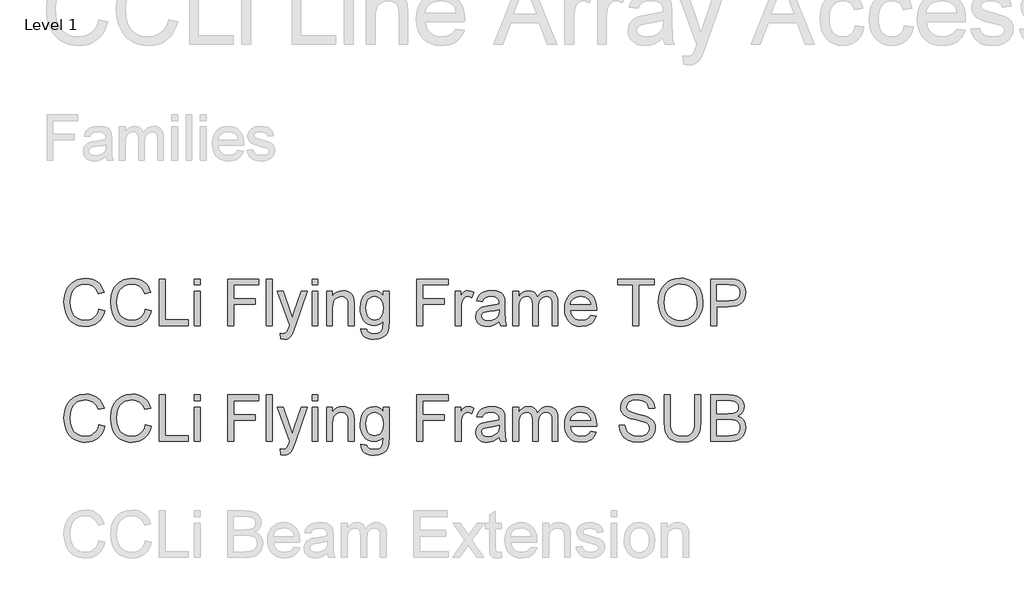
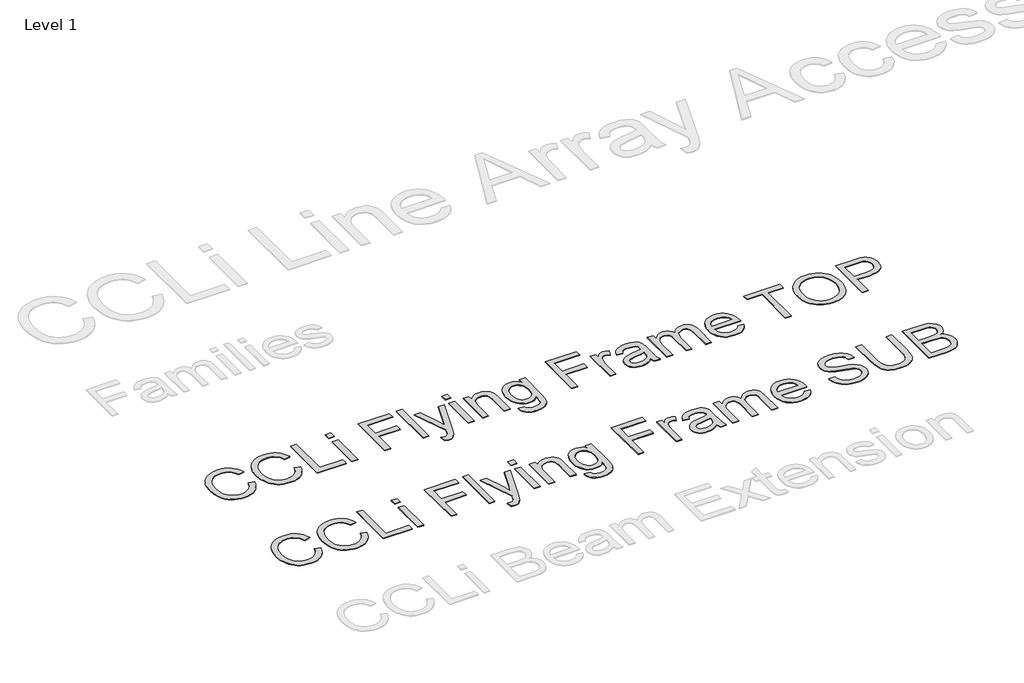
# One storey, part 12 of 31: 2 proxies.
"""IFC4 building model written with IfcOpenShell, lengths in millimetres."""

from ifc_helpers import new_model, si_unit, origin, origin_with_axes, place, context, project, spatial, polyline, outline, extrude, element, save

model = new_model("IFC4")

# Units and contexts
model_context = context("Model", 3, world=origin())
ifc_project = project(units=[si_unit("LENGTHUNIT", "METRE", prefix="MILLI")], contexts=[model_context])

# Site, building, storey
site = spatial("IfcSite", under=ifc_project)
building = spatial("IfcBuilding", under=site)
storey = spatial("IfcBuildingStorey", under=building, Name="Level 1", Elevation=0.0)

# Proxies
placement = place(None, origin())
element("IfcBuildingElementProxy", 1, Name="400mm Arial", ObjectType="400mm Arial", at=placement, inside=storey, context=model_context, shape_type="SweptSolid", body=[
    extrude(outline(polyline([(2002.8770376, -14954.6815806), (2053.1051927, -14967.6310268), (2043.1662474, -14998.8672739), (2029.928627, -15026.1610523), (2013.3923313, -15049.5123619), (1993.5573604, -15068.9212029), (1970.871304, -15084.1791086), (1945.7817519, -15095.0776127), (1918.2887042, -15101.6167152), (1888.3921607, -15103.796416), (1857.7629189, -15102.1470784), (1830.1319154, -15097.1990655), (1805.4991501, -15088.9523775), (1783.8646231, -15077.4070142), (1764.9309631, -15062.734654), (1748.4007988, -15045.106975), (1734.2741302, -15024.5239774), (1722.5509573, -15000.9856611), (1706.7688197, -14949.1142998), (1701.5081071, -14893.5641185), (1707.4555327, -14834.9727794), (1714.8898147, -14808.6753481), (1725.2978095, -14784.3767423), (1738.4465251, -14762.4785666), (1754.1029697, -14743.3824253), (1772.2671432, -14727.0883186), (1792.9390457, -14713.5962464), (1815.4166356, -14703.0165734), (1838.9978715, -14695.4596641), (1889.4712812, -14689.4141366), (1918.1997994, -14691.3700426), (1944.5432159, -14697.2377604), (1968.5015308, -14707.0172901), (1990.0747442, -14720.7086317), (2008.9072366, -14737.9500345), (2024.643389, -14758.379748), (2037.2832012, -14781.9977721), (2046.8266733, -14808.8041068), (1996.5985182, -14820.7725344), (1979.1854371, -14784.1437504), (1955.3957347, -14759.0174101), (1924.9351055, -14744.4860713), (1887.5092439, -14739.6422917), (1844.3689486, -14745.0133688), (1825.6866746, -14751.7272152), (1808.9296497, -14761.1266002), (1782.0374759, -14786.2897287), (1764.5385557, -14818.8104971), (1754.9368356, -14855.5741711), (1751.7362622, -14893.4660166), (1755.5254468, -14939.8681989), (1766.8930004, -14979.9918619), (1786.2681188, -15012.3041638), (1814.0799977, -15035.272263), (1847.4223692, -15048.9942614), (1883.3889656, -15053.5682609), (1905.2258277, -15052.0108938), (1925.3152503, -15047.3387925), (1943.6572334, -15039.5519569), (1960.2517771, -15028.6503871), (1974.7064738, -15014.683134), (1986.6289161, -14997.6992486), (1996.0191041, -14977.6987308), (2002.8770376, -14954.6815806)])), origin_with_axes(), (0.0, 0.0, 1.0), 5.0),
    extrude(outline(polyline([(2404.7022782, -14954.6815806), (2454.9304333, -14967.6310268), (2444.991488, -14998.8672739), (2431.7538676, -15026.1610523), (2415.2175719, -15049.5123619), (2395.382601, -15068.9212029), (2372.6965446, -15084.1791086), (2347.6069925, -15095.0776127), (2320.1139448, -15101.6167152), (2290.2174013, -15103.796416), (2259.5881595, -15102.1470784), (2231.957156, -15097.1990655), (2207.3243907, -15088.9523775), (2185.6898637, -15077.4070142), (2166.7562037, -15062.734654), (2150.2260394, -15045.106975), (2136.0993708, -15024.5239774), (2124.3761979, -15000.9856611), (2108.5940603, -14949.1142998), (2103.3333477, -14893.5641185), (2109.2807733, -14834.9727794), (2116.7150553, -14808.6753481), (2127.1230501, -14784.3767423), (2140.2717657, -14762.4785666), (2155.9282103, -14743.3824253), (2174.0923838, -14727.0883186), (2194.7642863, -14713.5962464), (2217.2418762, -14703.0165734), (2240.8231121, -14695.4596641), (2291.2965218, -14689.4141366), (2320.02504, -14691.3700426), (2346.3684565, -14697.2377604), (2370.3267714, -14707.0172901), (2391.8999848, -14720.7086317), (2410.7324772, -14737.9500345), (2426.4686296, -14758.379748), (2439.1084418, -14781.9977721), (2448.6519139, -14808.8041068), (2398.4237588, -14820.7725344), (2381.0106777, -14784.1437504), (2357.2209753, -14759.0174101), (2326.7603461, -14744.4860713), (2289.3344845, -14739.6422917), (2246.1941892, -14745.0133688), (2227.5119152, -14751.7272152), (2210.7548903, -14761.1266002), (2183.8627165, -14786.2897287), (2166.3637962, -14818.8104971), (2156.7620762, -14855.5741711), (2153.5615028, -14893.4660166), (2157.3506874, -14939.8681989), (2168.718241, -14979.9918619), (2188.0933594, -15012.3041638), (2215.9052383, -15035.272263), (2249.2476098, -15048.9942614), (2285.2142062, -15053.5682609), (2307.0510683, -15052.0108938), (2327.1404909, -15047.3387925), (2345.482474, -15039.5519569), (2362.0770177, -15028.6503871), (2376.5317144, -15014.683134), (2388.4541567, -14997.6992486), (2397.8443447, -14977.6987308), (2404.7022782, -14954.6815806)])), origin_with_axes(), (0.0, 0.0, 1.0), 5.0),
    extrude(outline(polyline([(2523.9941465, -15097.5178966), (2523.9941465, -14695.692656), (2574.2223016, -14695.692656), (2574.2223016, -15047.2897415), (2775.1349219, -15047.2897415), (2775.1349219, -15097.5178966), (2523.9941465, -15097.5178966)])), origin_with_axes(), (0.0, 0.0, 1.0), 5.0),
    extrude(outline(polyline([(2825.3630769, -15097.5178966), (2825.3630769, -14802.4274855), (2875.591232, -14802.4274855), (2875.591232, -15097.5178966), (2825.3630769, -15097.5178966)])), origin_with_axes(), (0.0, 0.0, 1.0), 5.0),
    extrude(outline(polyline([(2825.3630769, -14745.9208111), (2825.3630769, -14695.692656), (2875.591232, -14695.692656), (2875.591232, -14745.9208111), (2825.3630769, -14745.9208111)])), origin_with_axes(), (0.0, 0.0, 1.0), 5.0),
    extrude(outline(polyline([(3114.1749686, -15097.5178966), (3114.1749686, -14695.692656), (3384.1513021, -14695.692656), (3384.1513021, -14745.9208111), (3164.4031237, -14745.9208111), (3164.4031237, -14865.2126794), (3352.7587052, -14865.2126794), (3352.7587052, -14915.4408345), (3164.4031237, -14915.4408345), (3164.4031237, -15097.5178966), (3114.1749686, -15097.5178966)])), origin_with_axes(), (0.0, 0.0, 1.0), 5.0),
    extrude(outline(polyline([(3446.936496, -15097.5178966), (3446.936496, -14695.692656), (3497.1646511, -14695.692656), (3497.1646511, -15097.5178966), (3446.936496, -15097.5178966)])), origin_with_axes(), (0.0, 0.0, 1.0), 5.0),
    extrude(outline(polyline([(3572.5068837, -15210.5312455), (3566.2283643, -15162.1670259), (3591.7348493, -15166.5816098), (3605.1502794, -15165.195921), (3615.5736026, -15161.0388544), (3630.1907805, -15145.5878106), (3643.9250417, -15108.6034074), (3647.8491163, -15096.4387761), (3541.1142868, -14802.4274855), (3593.9911922, -14802.4274855), (3650.6940704, -14966.3557026), (3670.4125453, -15031.8877487), (3690.1310203, -14973.9095462), (3748.3054264, -14802.4274855), (3800.7899244, -14802.4274855), (3698.0772714, -15104.5812309), (3671.393564, -15170.113277), (3657.7328792, -15191.0334998), (3642.25731, -15205.5280504), (3624.3046686, -15213.9893363), (3603.2127675, -15216.8097649), (3572.5068837, -15210.5312455)])), origin_with_axes(), (0.0, 0.0, 1.0), 5.0),
    extrude(outline(polyline([(3842.4832172, -15097.5178966), (3842.4832172, -14802.4274855), (3892.7113723, -14802.4274855), (3892.7113723, -15097.5178966), (3842.4832172, -15097.5178966)])), origin_with_axes(), (0.0, 0.0, 1.0), 5.0),
    extrude(outline(polyline([(3842.4832172, -14745.9208111), (3842.4832172, -14695.692656), (3892.7113723, -14695.692656), (3892.7113723, -14745.9208111), (3842.4832172, -14745.9208111)])), origin_with_axes(), (0.0, 0.0, 1.0), 5.0),
    extrude(outline(polyline([(3968.0536049, -15097.5178966), (3968.0536049, -14802.4274855), (4018.28176, -14802.4274855), (4018.28176, -14843.630269), (4035.7316293, -14822.857199), (4056.6886403, -14808.0192919), (4081.1527929, -14799.1165476), (4109.1240873, -14796.1489662), (4133.8825456, -14798.5401991), (4156.5563392, -14805.713898), (4175.4654738, -14816.7748834), (4188.9299548, -14830.8279756), (4198.065691, -14847.8363865), (4203.9885911, -14867.7633279), (4206.6373415, -14916.3237513), (4206.6373415, -15097.5178966), (4156.4091864, -15097.5178966), (4156.4091864, -14923.09278), (4154.9621839, -14897.1203111), (4150.6211764, -14878.6526349), (4142.6136116, -14865.4211459), (4130.1669374, -14855.1572382), (4114.2131216, -14848.5721505), (4095.6841318, -14846.3771212), (4066.2658349, -14851.30674), (4041.1885455, -14866.0955962), (4031.1668269, -14878.168257), (4024.0084564, -14894.6677645), (4019.7134341, -14915.5941186), (4018.28176, -14940.9473195), (4018.28176, -15097.5178966), (3968.0536049, -15097.5178966)])), origin_with_axes(), (0.0, 0.0, 1.0), 5.0),
    extrude(outline(polyline([(4263.144016, -15122.6319741), (4313.372171, -15128.9104935), (4318.9149264, -15144.606792), (4329.6570807, -15155.3979972), (4350.7735072, -15163.7857067), (4378.4137078, -15166.5816098), (4407.8933183, -15163.4178247), (4429.8190852, -15153.9264692), (4445.0248744, -15138.7206801), (4454.3445516, -15118.4135939), (4457.7781169, -15059.8467803), (4441.0640116, -15076.3278937), (4422.4123944, -15088.1001175), (4401.8232654, -15095.1634518), (4379.2966246, -15097.5178966), (4351.7575915, -15094.7771757), (4327.5111024, -15086.5550132), (4306.5571571, -15072.8514088), (4288.8957556, -15053.6663628), (4274.8825173, -15030.6492126), (4264.8730613, -15005.4492959), (4258.8673878, -14978.0666128), (4256.8654966, -14948.5011631), (4260.4584774, -14907.9483045), (4271.2374199, -14870.6573329), (4288.8221792, -14839.0562695), (4312.8326108, -14815.5731355), (4342.4471114, -14801.0050085), (4376.8440779, -14796.1489662), (4400.3333433, -14798.8958184), (4421.6521049, -14807.1363751), (4440.8003628, -14820.8706362), (4457.7781169, -14840.0986019), (4457.7781169, -14802.4274855), (4508.0062719, -14802.4274855), (4508.0062719, -15057.1980299), (4504.5727067, -15116.022361), (4494.2720108, -15154.7603351), (4476.5278359, -15180.4507611), (4450.7638335, -15200.1324478), (4417.5440893, -15212.6404356), (4377.4326891, -15216.8097649), (4352.8244493, -15215.3413026), (4330.699413, -15210.9359157), (4311.0575801, -15203.5936042), (4293.8989508, -15193.3143682), (4280.0389966, -15180.0859447), (4270.2931894, -15163.8960713), (4264.6615292, -15144.7447477), (4263.144016, -15122.6319741)]), holes=[polyline([(4307.0936516, -14945.0675978), (4312.452466, -14991.1386863), (4319.150984, -15008.7755623), (4328.5289092, -15022.8133261), (4339.9301854, -15033.5217579), (4352.6987563, -15041.1706377), (4366.834622, -15045.7599656), (4382.3377824, -15047.2897415), (4397.6876586, -15045.7691626), (4411.7560793, -15041.2074259), (4424.5430443, -15033.6045313), (4436.0485537, -15022.9604789), (4445.5552376, -15009.0606709), (4452.3457261, -14991.6905093), (4457.7781169, -14946.5391258), (4452.1863105, -14902.9941603), (4445.1965526, -14885.7926113), (4435.4108916, -14871.6383516), (4423.6570618, -14860.5865633), (4410.7627979, -14852.6924288), (4396.7280998, -14847.9559481), (4381.5529675, -14846.3771212), (4366.6322869, -14847.9314227), (4352.8704346, -14852.594327), (4328.8232148, -14871.2459441), (4319.3165309, -14885.185606), (4312.5260424, -14902.135769), (4307.0936516, -14945.0675978)])]), origin_with_axes(), (0.0, 0.0, 1.0), 5.0),
    extrude(outline(polyline([(4746.5900086, -15097.5178966), (4746.5900086, -14695.692656), (5016.5663421, -14695.692656), (5016.5663421, -14745.9208111), (4796.8181636, -14745.9208111), (4796.8181636, -14865.2126794), (4985.1737452, -14865.2126794), (4985.1737452, -14915.4408345), (4796.8181636, -14915.4408345), (4796.8181636, -15097.5178966), (4746.5900086, -15097.5178966)])), origin_with_axes(), (0.0, 0.0, 1.0), 5.0),
    extrude(outline(polyline([(5079.3515359, -15097.5178966), (5079.3515359, -14802.4274855), (5123.3011716, -14802.4274855), (5123.3011716, -14846.0828156), (5139.5370303, -14820.7725344), (5154.4975648, -14805.8610508), (5169.5071502, -14798.5769873), (5185.8901617, -14796.1489662), (5210.9061374, -14800.0239898), (5236.3145205, -14811.6490609), (5219.5391016, -14856.6778171), (5201.8807658, -14848.9522952), (5184.22243, -14846.3771212), (5169.2251073, -14848.8541933), (5155.82194, -14856.2854096), (5144.9939466, -14868.1066844), (5137.7221458, -14883.7539319), (5131.6153047, -14911.8110654), (5129.579691, -14942.4188474), (5129.579691, -15097.5178966), (5079.3515359, -15097.5178966)])), origin_with_axes(), (0.0, 0.0, 1.0), 5.0),
    extrude(outline(polyline([(5456.062699, -15059.8467803), (5432.0645302, -15080.4236466), (5407.3551228, -15093.8881276), (5381.3703912, -15101.3193439), (5353.5462497, -15103.796416), (5331.18209, -15102.3064939), (5311.570914, -15097.8367277), (5294.7127216, -15090.3871173), (5280.6075128, -15079.9576627), (5269.4698853, -15067.2105516), (5261.5144372, -15052.8079715), (5256.7411683, -15036.7499224), (5255.1500787, -15019.0364043), (5257.5535744, -14998.2142834), (5264.7640615, -14979.3051488), (5275.8863605, -14963.118341), (5290.0252918, -14950.4632004), (5306.6412953, -14940.8982685), (5325.1948106, -14933.982087), (5368.6539369, -14926.4282434), (5420.0102635, -14918.4819923), (5455.7683934, -14909.1623151), (5456.062699, -14897.9787024), (5452.6046082, -14875.5624262), (5442.230336, -14860.8961973), (5419.0292448, -14850.0068903), (5386.7046802, -14846.3771212), (5356.7836112, -14848.7928797), (5335.8879139, -14856.040155), (5321.6386179, -14869.4433223), (5311.6567531, -14890.3267569), (5261.4285981, -14884.0482375), (5270.1474014, -14856.5797152), (5283.1581613, -14834.9973049), (5301.6748883, -14818.491666), (5326.9115932, -14806.2534583), (5357.7768926, -14798.6750892), (5393.1794033, -14796.1489662), (5427.1349114, -14798.3807836), (5454.0516107, -14805.0762359), (5474.3464341, -14815.1439398), (5488.4363146, -14827.4925121), (5497.7805172, -14842.7596149), (5503.8383074, -14861.5829104), (5506.2908541, -14905.5325461), (5506.2908541, -14968.0234343), (5508.8415026, -15055.2850436), (5518.8478928, -15097.5178966), (5468.6197378, -15097.5178966), (5460.5753848, -15080.0557646), (5456.062699, -15059.8467803)]), holes=[polyline([(5456.062699, -14959.3904702), (5422.3156573, -14967.7536542), (5375.0305582, -14974.792463), (5331.8166865, -14982.9349178), (5320.5717602, -14988.5021987), (5312.2453643, -14996.1786697), (5307.0950164, -15005.3757195), (5305.3782338, -15015.5047372), (5309.1183674, -15030.4407462), (5320.3387682, -15042.6789539), (5338.7941817, -15050.8459342), (5364.239353, -15053.5682609), (5391.217366, -15050.5638913), (5415.0561193, -15041.5507824), (5434.3821867, -15028.2702424), (5447.8221423, -15012.4635793), (5453.7818306, -14996.1786697), (5455.7683934, -14973.6152406), (5456.062699, -14959.3904702)])]), origin_with_axes(), (0.0, 0.0, 1.0), 5.0),
    extrude(outline(polyline([(5575.3545673, -15097.5178966), (5575.3545673, -14802.4274855), (5625.5827224, -14802.4274855), (5625.5827224, -14850.9879089), (5640.6904096, -14828.6819973), (5660.114579, -14811.2076025), (5683.1930428, -14799.9136252), (5709.2636135, -14796.1489662), (5737.1981197, -14799.9872016), (5759.5898705, -14811.5019081), (5776.3162385, -14829.9327961), (5787.2545965, -14854.5195761), (5805.5628571, -14828.9824342), (5826.4462917, -14810.7416186), (5849.9049003, -14799.7971293), (5875.9386828, -14796.1489662), (5896.0464995, -14797.6664794), (5913.6956383, -14802.2190191), (5928.886099, -14809.8065852), (5941.6178817, -14820.4291778), (5951.6825199, -14834.2094242), (5958.8715473, -14851.2699518), (5963.1849637, -14871.6107604), (5964.6227691, -14895.2318502), (5964.6227691, -15097.5178966), (5914.394614, -15097.5178966), (5914.394614, -14916.8142606), (5913.2296544, -14891.7614967), (5909.7347754, -14874.8757131), (5903.1864759, -14863.3119557), (5892.8612546, -14854.2252705), (5879.5807146, -14848.3391585), (5864.166459, -14846.3771212), (5836.9554541, -14851.4048418), (5814.7721697, -14866.4880036), (5806.1667967, -14878.0578924), (5800.0201017, -14892.6566762), (5795.1027457, -14930.9409292), (5795.1027457, -15097.5178966), (5744.8745907, -15097.5178966), (5744.8745907, -14911.2224543), (5741.9683229, -14882.8219642), (5733.2495196, -14862.563929), (5717.9088404, -14850.4238232), (5695.1369449, -14846.3771212), (5675.786352, -14849.0749225), (5657.9563379, -14857.1683264), (5643.2410581, -14870.4611292), (5633.2346679, -14888.7571271), (5627.4957087, -14914.1409847), (5625.5827224, -14948.6973668), (5625.5827224, -15097.5178966), (5575.3545673, -15097.5178966)])), origin_with_axes(), (0.0, 0.0, 1.0), 5.0),
    extrude(outline(polyline([(6246.5675302, -15009.6186252), (6295.8146666, -15015.8971446), (6288.2638887, -15035.6217509), (6278.0704917, -15053.0041752), (6265.2344758, -15068.0444174), (6249.7558408, -15080.7424776), (6231.7940024, -15090.8285757), (6211.5083761, -15098.0329314), (6163.9657596, -15103.796416), (6132.8000232, -15101.3101468), (6105.0310639, -15093.8513394), (6080.6588818, -15081.4199936), (6059.6834767, -15064.0161096), (6042.8160872, -15042.1240652), (6030.7679519, -15016.2282384), (6023.5390706, -14986.3286292), (6021.1294436, -14952.4252377), (6023.5635961, -14917.3722149), (6030.8660537, -14886.4762587), (6043.0368164, -14859.737369), (6060.0758841, -14837.1555459), (6080.9961069, -14819.2151673), (6104.8103347, -14806.4006111), (6131.5185676, -14798.7118774), (6161.1208055, -14796.1489662), (6189.7696158, -14798.705746), (6215.6777054, -14806.3760856), (6238.845074, -14819.159985), (6259.2717218, -14837.057444), (6275.9459732, -14859.5902162), (6287.8561528, -14886.280055), (6295.0022606, -14917.1269603), (6297.3842965, -14952.1309321), (6297.0899909, -14965.6689895), (6071.3575987, -14965.6689895), (6074.2669321, -14985.7124269), (6080.0518765, -15003.2665294), (6088.7124318, -15018.3312971), (6100.248598, -15030.90673), (6114.022713, -15040.8211498), (6129.3971148, -15047.9028782), (6164.9467782, -15053.5682609), (6191.6795365, -15050.944036), (6214.1939146, -15043.0713613), (6232.4899125, -15029.4597275), (6246.5675302, -15009.6186252)]), holes=[polyline([(6071.3575987, -14915.4408345), (6247.1561414, -14915.4408345), (6240.3625872, -14888.9042799), (6227.045259, -14869.9215689), (6213.3477861, -14859.6208731), (6197.7618522, -14852.2632332), (6180.2874574, -14847.8486492), (6160.9246017, -14846.3771212), (6127.0671955, -14851.073748), (6099.0713756, -14865.1636285), (6079.6104181, -14887.1261836), (6071.3575987, -14915.4408345)])]), origin_with_axes(), (0.0, 0.0, 1.0), 5.0),
    extrude(outline(polyline([(6611.3102657, -15097.5178966), (6611.3102657, -14745.9208111), (6479.4613586, -14745.9208111), (6479.4613586, -14695.692656), (6793.3873279, -14695.692656), (6793.3873279, -14745.9208111), (6661.5384208, -14745.9208111), (6661.5384208, -15097.5178966), (6611.3102657, -15097.5178966)])), origin_with_axes(), (0.0, 0.0, 1.0), 5.0),
    extrude(outline(polyline([(6831.0584442, -14901.902777), (6834.4061703, -14854.7709621), (6844.4493488, -14813.0470125), (6861.1879796, -14776.7309282), (6884.6220627, -14745.8227092), (6913.3475151, -14721.1439587), (6945.960254, -14703.5162798), (6982.4602793, -14692.9396724), (7022.847591, -14689.4141366), (7049.8807863, -14691.0696056), (7075.5528182, -14696.0360125), (7099.8636867, -14704.3133574), (7122.8133918, -14715.9016403), (7143.7581401, -14730.4513732), (7162.054138, -14747.6130683), (7177.7013855, -14767.3867255), (7190.6998826, -14789.7723449), (7200.9147394, -14814.2610231), (7208.2110656, -14840.3438565), (7214.0481266, -14897.2919894), (7212.5122193, -14926.9494095), (7207.9044973, -14955.0004117), (7200.2249606, -14981.4449958), (7189.4736093, -15006.2831618), (7175.9048951, -15028.8588536), (7159.7732696, -15048.5160149), (7141.0787329, -15065.2546456), (7119.8212849, -15079.0747459), (7096.8378573, -15089.8904766), (7072.9653815, -15097.6159985), (7048.2038575, -15102.2513116), (7022.5532854, -15103.796416), (6995.0479749, -15102.0888304), (6969.0387178, -15096.9660736), (6944.5255142, -15088.4281456), (6921.508364, -15076.4750465), (6900.5881412, -15061.5696943), (6882.3657198, -15044.1750073), (6866.8410996, -15024.2909855), (6854.0142807, -15001.9176288), (6836.7974033, -14953.2958918), (6831.0584442, -14901.902777)]), holes=[polyline([(6881.2865992, -14902.3932864), (6883.7973939, -14935.6927383), (6891.3297777, -14965.2520566), (6903.8837508, -14991.0712413), (6921.4593131, -15013.1502924), (6942.82406, -15030.8331536), (6966.7455867, -15043.4637688), (6993.2238933, -15051.0421379), (7022.2589798, -15053.5682609), (7051.7907069, -15051.0176124), (7078.5817132, -15043.3656669), (7102.6319987, -15030.6124244), (7123.9415633, -15012.7578849), (7141.3883669, -14990.21285), (7153.8503695, -14963.3881212), (7161.327571, -14932.2836985), (7163.8199715, -14896.8995819), (7159.5525404, -14852.4349114), (7146.750247, -14814.0035057), (7125.744185, -14782.5741205), (7096.8654484, -14759.115512), (7062.0270235, -14744.5105968), (7023.1418966, -14739.6422917), (6995.1154199, -14741.9875394), (6969.1122942, -14749.0232826), (6945.1325195, -14760.7495212), (6923.1760958, -14777.1662552), (6904.849441, -14799.064431), (6891.7589734, -14827.2349948), (6883.9046928, -14861.6779466), (6881.2865992, -14902.3932864)])]), origin_with_axes(), (0.0, 0.0, 1.0), 5.0),
    extrude(outline(polyline([(7283.1118398, -15097.5178966), (7283.1118398, -14695.692656), (7432.0304715, -14695.692656), (7492.0688131, -14699.5186288), (7518.8383596, -14706.6678022), (7540.8744911, -14718.305136), (7558.618666, -14734.9579276), (7572.5123427, -14757.1534747), (7581.4886634, -14783.33441), (7584.4807703, -14811.9433665), (7582.460485, -14836.6098543), (7576.3996291, -14859.302042), (7566.2982027, -14880.0199297), (7552.1562056, -14898.7635173), (7532.7412333, -14914.3004003), (7506.8208811, -14925.3981738), (7474.3951489, -14932.0568379), (7435.4640368, -14934.2763926), (7333.3399949, -14934.2763926), (7333.3399949, -15097.5178966), (7283.1118398, -15097.5178966)]), holes=[polyline([(7333.3399949, -14884.0482375), (7438.4070927, -14884.0482375), (7482.9453396, -14879.4374499), (7499.5490803, -14873.6739653), (7512.3758992, -14865.6050868), (7521.9469625, -14855.4454124), (7528.7834362, -14843.4095398), (7534.2526152, -14813.7092001), (7531.0275164, -14791.145771), (7521.3522199, -14772.1140091), (7506.4284736, -14757.7911368), (7487.4580254, -14749.3543764), (7437.2298703, -14745.9208111), (7333.3399949, -14745.9208111), (7333.3399949, -14884.0482375)])]), origin_with_axes(), (0.0, 0.0, 1.0), 5.0),
])
element("IfcBuildingElementProxy", 2, Name="400mm Arial", ObjectType="400mm Arial", at=placement, inside=storey, context=model_context, shape_type="SweptSolid", body=[
    extrude(outline(polyline([(2002.8770376, -15954.6815806), (2053.1051927, -15967.6310268), (2043.1662474, -15998.8672739), (2029.928627, -16026.1610523), (2013.3923313, -16049.5123619), (1993.5573604, -16068.9212029), (1970.871304, -16084.1791086), (1945.7817519, -16095.0776127), (1918.2887042, -16101.6167152), (1888.3921607, -16103.796416), (1857.7629189, -16102.1470784), (1830.1319154, -16097.1990655), (1805.4991501, -16088.9523775), (1783.8646231, -16077.4070142), (1764.9309631, -16062.734654), (1748.4007988, -16045.106975), (1734.2741302, -16024.5239774), (1722.5509573, -16000.9856611), (1706.7688197, -15949.1142998), (1701.5081071, -15893.5641185), (1707.4555327, -15834.9727794), (1714.8898147, -15808.6753481), (1725.2978095, -15784.3767423), (1738.4465251, -15762.4785666), (1754.1029697, -15743.3824253), (1772.2671432, -15727.0883186), (1792.9390457, -15713.5962464), (1815.4166356, -15703.0165734), (1838.9978715, -15695.4596641), (1889.4712812, -15689.4141366), (1918.1997994, -15691.3700426), (1944.5432159, -15697.2377604), (1968.5015308, -15707.0172901), (1990.0747442, -15720.7086317), (2008.9072366, -15737.9500345), (2024.643389, -15758.379748), (2037.2832012, -15781.9977721), (2046.8266733, -15808.8041068), (1996.5985182, -15820.7725344), (1979.1854371, -15784.1437504), (1955.3957347, -15759.0174101), (1924.9351055, -15744.4860713), (1887.5092439, -15739.6422917), (1844.3689486, -15745.0133688), (1825.6866746, -15751.7272152), (1808.9296497, -15761.1266002), (1782.0374759, -15786.2897287), (1764.5385557, -15818.8104971), (1754.9368356, -15855.5741711), (1751.7362622, -15893.4660166), (1755.5254468, -15939.8681989), (1766.8930004, -15979.9918619), (1786.2681188, -16012.3041638), (1814.0799977, -16035.272263), (1847.4223692, -16048.9942614), (1883.3889656, -16053.5682609), (1905.2258277, -16052.0108938), (1925.3152503, -16047.3387925), (1943.6572334, -16039.5519569), (1960.2517771, -16028.6503871), (1974.7064738, -16014.683134), (1986.6289161, -15997.6992486), (1996.0191041, -15977.6987308), (2002.8770376, -15954.6815806)])), origin_with_axes(), (0.0, 0.0, 1.0), 5.0),
    extrude(outline(polyline([(2404.7022782, -15954.6815806), (2454.9304333, -15967.6310268), (2444.991488, -15998.8672739), (2431.7538676, -16026.1610523), (2415.2175719, -16049.5123619), (2395.382601, -16068.9212029), (2372.6965446, -16084.1791086), (2347.6069925, -16095.0776127), (2320.1139448, -16101.6167152), (2290.2174013, -16103.796416), (2259.5881595, -16102.1470784), (2231.957156, -16097.1990655), (2207.3243907, -16088.9523775), (2185.6898637, -16077.4070142), (2166.7562037, -16062.734654), (2150.2260394, -16045.106975), (2136.0993708, -16024.5239774), (2124.3761979, -16000.9856611), (2108.5940603, -15949.1142998), (2103.3333477, -15893.5641185), (2109.2807733, -15834.9727794), (2116.7150553, -15808.6753481), (2127.1230501, -15784.3767423), (2140.2717657, -15762.4785666), (2155.9282103, -15743.3824253), (2174.0923838, -15727.0883186), (2194.7642863, -15713.5962464), (2217.2418762, -15703.0165734), (2240.8231121, -15695.4596641), (2291.2965218, -15689.4141366), (2320.02504, -15691.3700426), (2346.3684565, -15697.2377604), (2370.3267714, -15707.0172901), (2391.8999848, -15720.7086317), (2410.7324772, -15737.9500345), (2426.4686296, -15758.379748), (2439.1084418, -15781.9977721), (2448.6519139, -15808.8041068), (2398.4237588, -15820.7725344), (2381.0106777, -15784.1437504), (2357.2209753, -15759.0174101), (2326.7603461, -15744.4860713), (2289.3344845, -15739.6422917), (2246.1941892, -15745.0133688), (2227.5119152, -15751.7272152), (2210.7548903, -15761.1266002), (2183.8627165, -15786.2897287), (2166.3637962, -15818.8104971), (2156.7620762, -15855.5741711), (2153.5615028, -15893.4660166), (2157.3506874, -15939.8681989), (2168.718241, -15979.9918619), (2188.0933594, -16012.3041638), (2215.9052383, -16035.272263), (2249.2476098, -16048.9942614), (2285.2142062, -16053.5682609), (2307.0510683, -16052.0108938), (2327.1404909, -16047.3387925), (2345.482474, -16039.5519569), (2362.0770177, -16028.6503871), (2376.5317144, -16014.683134), (2388.4541567, -15997.6992486), (2397.8443447, -15977.6987308), (2404.7022782, -15954.6815806)])), origin_with_axes(), (0.0, 0.0, 1.0), 5.0),
    extrude(outline(polyline([(2523.9941465, -16097.5178966), (2523.9941465, -15695.692656), (2574.2223016, -15695.692656), (2574.2223016, -16047.2897415), (2775.1349219, -16047.2897415), (2775.1349219, -16097.5178966), (2523.9941465, -16097.5178966)])), origin_with_axes(), (0.0, 0.0, 1.0), 5.0),
    extrude(outline(polyline([(2825.3630769, -16097.5178966), (2825.3630769, -15802.4274855), (2875.591232, -15802.4274855), (2875.591232, -16097.5178966), (2825.3630769, -16097.5178966)])), origin_with_axes(), (0.0, 0.0, 1.0), 5.0),
    extrude(outline(polyline([(2825.3630769, -15745.9208111), (2825.3630769, -15695.692656), (2875.591232, -15695.692656), (2875.591232, -15745.9208111), (2825.3630769, -15745.9208111)])), origin_with_axes(), (0.0, 0.0, 1.0), 5.0),
    extrude(outline(polyline([(3114.1749686, -16097.5178966), (3114.1749686, -15695.692656), (3384.1513021, -15695.692656), (3384.1513021, -15745.9208111), (3164.4031237, -15745.9208111), (3164.4031237, -15865.2126794), (3352.7587052, -15865.2126794), (3352.7587052, -15915.4408345), (3164.4031237, -15915.4408345), (3164.4031237, -16097.5178966), (3114.1749686, -16097.5178966)])), origin_with_axes(), (0.0, 0.0, 1.0), 5.0),
    extrude(outline(polyline([(3446.936496, -16097.5178966), (3446.936496, -15695.692656), (3497.1646511, -15695.692656), (3497.1646511, -16097.5178966), (3446.936496, -16097.5178966)])), origin_with_axes(), (0.0, 0.0, 1.0), 5.0),
    extrude(outline(polyline([(3572.5068837, -16210.5312455), (3566.2283643, -16162.1670259), (3591.7348493, -16166.5816098), (3605.1502794, -16165.195921), (3615.5736026, -16161.0388544), (3630.1907805, -16145.5878106), (3643.9250417, -16108.6034074), (3647.8491163, -16096.4387761), (3541.1142868, -15802.4274855), (3593.9911922, -15802.4274855), (3650.6940704, -15966.3557026), (3670.4125453, -16031.8877487), (3690.1310203, -15973.9095462), (3748.3054264, -15802.4274855), (3800.7899244, -15802.4274855), (3698.0772714, -16104.5812309), (3671.393564, -16170.113277), (3657.7328792, -16191.0334998), (3642.25731, -16205.5280504), (3624.3046686, -16213.9893363), (3603.2127675, -16216.8097649), (3572.5068837, -16210.5312455)])), origin_with_axes(), (0.0, 0.0, 1.0), 5.0),
    extrude(outline(polyline([(3842.4832172, -16097.5178966), (3842.4832172, -15802.4274855), (3892.7113723, -15802.4274855), (3892.7113723, -16097.5178966), (3842.4832172, -16097.5178966)])), origin_with_axes(), (0.0, 0.0, 1.0), 5.0),
    extrude(outline(polyline([(3842.4832172, -15745.9208111), (3842.4832172, -15695.692656), (3892.7113723, -15695.692656), (3892.7113723, -15745.9208111), (3842.4832172, -15745.9208111)])), origin_with_axes(), (0.0, 0.0, 1.0), 5.0),
    extrude(outline(polyline([(3968.0536049, -16097.5178966), (3968.0536049, -15802.4274855), (4018.28176, -15802.4274855), (4018.28176, -15843.630269), (4035.7316293, -15822.857199), (4056.6886403, -15808.0192919), (4081.1527929, -15799.1165476), (4109.1240873, -15796.1489662), (4133.8825456, -15798.5401991), (4156.5563392, -15805.713898), (4175.4654738, -15816.7748834), (4188.9299548, -15830.8279756), (4198.065691, -15847.8363865), (4203.9885911, -15867.7633279), (4206.6373415, -15916.3237513), (4206.6373415, -16097.5178966), (4156.4091864, -16097.5178966), (4156.4091864, -15923.09278), (4154.9621839, -15897.1203111), (4150.6211764, -15878.6526349), (4142.6136116, -15865.4211459), (4130.1669374, -15855.1572382), (4114.2131216, -15848.5721505), (4095.6841318, -15846.3771212), (4066.2658349, -15851.30674), (4041.1885455, -15866.0955962), (4031.1668269, -15878.168257), (4024.0084564, -15894.6677645), (4019.7134341, -15915.5941186), (4018.28176, -15940.9473195), (4018.28176, -16097.5178966), (3968.0536049, -16097.5178966)])), origin_with_axes(), (0.0, 0.0, 1.0), 5.0),
    extrude(outline(polyline([(4263.144016, -16122.6319741), (4313.372171, -16128.9104935), (4318.9149264, -16144.606792), (4329.6570807, -16155.3979972), (4350.7735072, -16163.7857067), (4378.4137078, -16166.5816098), (4407.8933183, -16163.4178247), (4429.8190852, -16153.9264692), (4445.0248744, -16138.7206801), (4454.3445516, -16118.4135939), (4457.7781169, -16059.8467803), (4441.0640116, -16076.3278937), (4422.4123944, -16088.1001175), (4401.8232654, -16095.1634518), (4379.2966246, -16097.5178966), (4351.7575915, -16094.7771757), (4327.5111024, -16086.5550132), (4306.5571571, -16072.8514088), (4288.8957556, -16053.6663628), (4274.8825173, -16030.6492126), (4264.8730613, -16005.4492959), (4258.8673878, -15978.0666128), (4256.8654966, -15948.5011631), (4260.4584774, -15907.9483045), (4271.2374199, -15870.6573329), (4288.8221792, -15839.0562695), (4312.8326108, -15815.5731355), (4342.4471114, -15801.0050085), (4376.8440779, -15796.1489662), (4400.3333433, -15798.8958184), (4421.6521049, -15807.1363751), (4440.8003628, -15820.8706362), (4457.7781169, -15840.0986019), (4457.7781169, -15802.4274855), (4508.0062719, -15802.4274855), (4508.0062719, -16057.1980299), (4504.5727067, -16116.022361), (4494.2720108, -16154.7603351), (4476.5278359, -16180.4507611), (4450.7638335, -16200.1324478), (4417.5440893, -16212.6404356), (4377.4326891, -16216.8097649), (4352.8244493, -16215.3413026), (4330.699413, -16210.9359157), (4311.0575801, -16203.5936042), (4293.8989508, -16193.3143682), (4280.0389966, -16180.0859447), (4270.2931894, -16163.8960713), (4264.6615292, -16144.7447477), (4263.144016, -16122.6319741)]), holes=[polyline([(4307.0936516, -15945.0675978), (4312.452466, -15991.1386863), (4319.150984, -16008.7755623), (4328.5289092, -16022.8133261), (4339.9301854, -16033.5217579), (4352.6987563, -16041.1706377), (4366.834622, -16045.7599656), (4382.3377824, -16047.2897415), (4397.6876586, -16045.7691626), (4411.7560793, -16041.2074259), (4424.5430443, -16033.6045313), (4436.0485537, -16022.9604789), (4445.5552376, -16009.0606709), (4452.3457261, -15991.6905093), (4457.7781169, -15946.5391258), (4452.1863105, -15902.9941603), (4445.1965526, -15885.7926113), (4435.4108916, -15871.6383516), (4423.6570618, -15860.5865633), (4410.7627979, -15852.6924288), (4396.7280998, -15847.9559481), (4381.5529675, -15846.3771212), (4366.6322869, -15847.9314227), (4352.8704346, -15852.594327), (4328.8232148, -15871.2459441), (4319.3165309, -15885.185606), (4312.5260424, -15902.135769), (4307.0936516, -15945.0675978)])]), origin_with_axes(), (0.0, 0.0, 1.0), 5.0),
    extrude(outline(polyline([(4746.5900086, -16097.5178966), (4746.5900086, -15695.692656), (5016.5663421, -15695.692656), (5016.5663421, -15745.9208111), (4796.8181636, -15745.9208111), (4796.8181636, -15865.2126794), (4985.1737452, -15865.2126794), (4985.1737452, -15915.4408345), (4796.8181636, -15915.4408345), (4796.8181636, -16097.5178966), (4746.5900086, -16097.5178966)])), origin_with_axes(), (0.0, 0.0, 1.0), 5.0),
    extrude(outline(polyline([(5079.3515359, -16097.5178966), (5079.3515359, -15802.4274855), (5123.3011716, -15802.4274855), (5123.3011716, -15846.0828156), (5139.5370303, -15820.7725344), (5154.4975648, -15805.8610508), (5169.5071502, -15798.5769873), (5185.8901617, -15796.1489662), (5210.9061374, -15800.0239898), (5236.3145205, -15811.6490609), (5219.5391016, -15856.6778171), (5201.8807658, -15848.9522952), (5184.22243, -15846.3771212), (5169.2251073, -15848.8541933), (5155.82194, -15856.2854096), (5144.9939466, -15868.1066844), (5137.7221458, -15883.7539319), (5131.6153047, -15911.8110654), (5129.579691, -15942.4188474), (5129.579691, -16097.5178966), (5079.3515359, -16097.5178966)])), origin_with_axes(), (0.0, 0.0, 1.0), 5.0),
    extrude(outline(polyline([(5456.062699, -16059.8467803), (5432.0645302, -16080.4236466), (5407.3551228, -16093.8881276), (5381.3703912, -16101.3193439), (5353.5462497, -16103.796416), (5331.18209, -16102.3064939), (5311.570914, -16097.8367277), (5294.7127216, -16090.3871173), (5280.6075128, -16079.9576627), (5269.4698853, -16067.2105516), (5261.5144372, -16052.8079715), (5256.7411683, -16036.7499224), (5255.1500787, -16019.0364043), (5257.5535744, -15998.2142834), (5264.7640615, -15979.3051488), (5275.8863605, -15963.118341), (5290.0252918, -15950.4632004), (5306.6412953, -15940.8982685), (5325.1948106, -15933.982087), (5368.6539369, -15926.4282434), (5420.0102635, -15918.4819923), (5455.7683934, -15909.1623151), (5456.062699, -15897.9787024), (5452.6046082, -15875.5624262), (5442.230336, -15860.8961973), (5419.0292448, -15850.0068903), (5386.7046802, -15846.3771212), (5356.7836112, -15848.7928797), (5335.8879139, -15856.040155), (5321.6386179, -15869.4433223), (5311.6567531, -15890.3267569), (5261.4285981, -15884.0482375), (5270.1474014, -15856.5797152), (5283.1581613, -15834.9973049), (5301.6748883, -15818.491666), (5326.9115932, -15806.2534583), (5357.7768926, -15798.6750892), (5393.1794033, -15796.1489662), (5427.1349114, -15798.3807836), (5454.0516107, -15805.0762359), (5474.3464341, -15815.1439398), (5488.4363146, -15827.4925121), (5497.7805172, -15842.7596149), (5503.8383074, -15861.5829104), (5506.2908541, -15905.5325461), (5506.2908541, -15968.0234343), (5508.8415026, -16055.2850436), (5518.8478928, -16097.5178966), (5468.6197378, -16097.5178966), (5460.5753848, -16080.0557646), (5456.062699, -16059.8467803)]), holes=[polyline([(5456.062699, -15959.3904702), (5422.3156573, -15967.7536542), (5375.0305582, -15974.792463), (5331.8166865, -15982.9349178), (5320.5717602, -15988.5021987), (5312.2453643, -15996.1786697), (5307.0950164, -16005.3757195), (5305.3782338, -16015.5047372), (5309.1183674, -16030.4407462), (5320.3387682, -16042.6789539), (5338.7941817, -16050.8459342), (5364.239353, -16053.5682609), (5391.217366, -16050.5638913), (5415.0561193, -16041.5507824), (5434.3821867, -16028.2702424), (5447.8221423, -16012.4635793), (5453.7818306, -15996.1786697), (5455.7683934, -15973.6152406), (5456.062699, -15959.3904702)])]), origin_with_axes(), (0.0, 0.0, 1.0), 5.0),
    extrude(outline(polyline([(5575.3545673, -16097.5178966), (5575.3545673, -15802.4274855), (5625.5827224, -15802.4274855), (5625.5827224, -15850.9879089), (5640.6904096, -15828.6819973), (5660.114579, -15811.2076025), (5683.1930428, -15799.9136252), (5709.2636135, -15796.1489662), (5737.1981197, -15799.9872016), (5759.5898705, -15811.5019081), (5776.3162385, -15829.9327961), (5787.2545965, -15854.5195761), (5805.5628571, -15828.9824342), (5826.4462917, -15810.7416186), (5849.9049003, -15799.7971293), (5875.9386828, -15796.1489662), (5896.0464995, -15797.6664794), (5913.6956383, -15802.2190191), (5928.886099, -15809.8065852), (5941.6178817, -15820.4291778), (5951.6825199, -15834.2094242), (5958.8715473, -15851.2699518), (5963.1849637, -15871.6107604), (5964.6227691, -15895.2318502), (5964.6227691, -16097.5178966), (5914.394614, -16097.5178966), (5914.394614, -15916.8142606), (5913.2296544, -15891.7614967), (5909.7347754, -15874.8757131), (5903.1864759, -15863.3119557), (5892.8612546, -15854.2252705), (5879.5807146, -15848.3391585), (5864.166459, -15846.3771212), (5836.9554541, -15851.4048418), (5814.7721697, -15866.4880036), (5806.1667967, -15878.0578924), (5800.0201017, -15892.6566762), (5795.1027457, -15930.9409292), (5795.1027457, -16097.5178966), (5744.8745907, -16097.5178966), (5744.8745907, -15911.2224543), (5741.9683229, -15882.8219642), (5733.2495196, -15862.563929), (5717.9088404, -15850.4238232), (5695.1369449, -15846.3771212), (5675.786352, -15849.0749225), (5657.9563379, -15857.1683264), (5643.2410581, -15870.4611292), (5633.2346679, -15888.7571271), (5627.4957087, -15914.1409847), (5625.5827224, -15948.6973668), (5625.5827224, -16097.5178966), (5575.3545673, -16097.5178966)])), origin_with_axes(), (0.0, 0.0, 1.0), 5.0),
    extrude(outline(polyline([(6246.5675302, -16009.6186252), (6295.8146666, -16015.8971446), (6288.2638887, -16035.6217509), (6278.0704917, -16053.0041752), (6265.2344758, -16068.0444174), (6249.7558408, -16080.7424776), (6231.7940024, -16090.8285757), (6211.5083761, -16098.0329314), (6163.9657596, -16103.796416), (6132.8000232, -16101.3101468), (6105.0310639, -16093.8513394), (6080.6588818, -16081.4199936), (6059.6834767, -16064.0161096), (6042.8160872, -16042.1240652), (6030.7679519, -16016.2282384), (6023.5390706, -15986.3286292), (6021.1294436, -15952.4252377), (6023.5635961, -15917.3722149), (6030.8660537, -15886.4762587), (6043.0368164, -15859.737369), (6060.0758841, -15837.1555459), (6080.9961069, -15819.2151673), (6104.8103347, -15806.4006111), (6131.5185676, -15798.7118774), (6161.1208055, -15796.1489662), (6189.7696158, -15798.705746), (6215.6777054, -15806.3760856), (6238.845074, -15819.159985), (6259.2717218, -15837.057444), (6275.9459732, -15859.5902162), (6287.8561528, -15886.280055), (6295.0022606, -15917.1269603), (6297.3842965, -15952.1309321), (6297.0899909, -15965.6689895), (6071.3575987, -15965.6689895), (6074.2669321, -15985.7124269), (6080.0518765, -16003.2665294), (6088.7124318, -16018.3312971), (6100.248598, -16030.90673), (6114.022713, -16040.8211498), (6129.3971148, -16047.9028782), (6164.9467782, -16053.5682609), (6191.6795365, -16050.944036), (6214.1939146, -16043.0713613), (6232.4899125, -16029.4597275), (6246.5675302, -16009.6186252)]), holes=[polyline([(6071.3575987, -15915.4408345), (6247.1561414, -15915.4408345), (6240.3625872, -15888.9042799), (6227.045259, -15869.9215689), (6213.3477861, -15859.6208731), (6197.7618522, -15852.2632332), (6180.2874574, -15847.8486492), (6160.9246017, -15846.3771212), (6127.0671955, -15851.073748), (6099.0713756, -15865.1636285), (6079.6104181, -15887.1261836), (6071.3575987, -15915.4408345)])]), origin_with_axes(), (0.0, 0.0, 1.0), 5.0),
    extrude(outline(polyline([(6492.0183974, -15959.3904702), (6542.2465525, -15959.3904702), (6548.0100371, -15987.2636627), (6558.4333603, -16009.6676762), (6574.6937445, -16027.4486393), (6597.968412, -16041.4526805), (6626.417953, -16050.5393658), (6658.2029574, -16053.5682609), (6686.1865145, -16051.2751298), (6710.6874553, -16044.3957365), (6730.5408203, -16033.5064294), (6744.5816498, -16019.1835571), (6752.9325711, -16002.7392319), (6755.7162115, -15985.4855663), (6753.6315469, -15968.6733592), (6747.377553, -15954.1420204), (6734.6733614, -15941.7443971), (6713.2381038, -15931.3333367), (6640.1031632, -15912.154422), (6592.0945628, -15899.4624931), (6561.3764162, -15887.383701), (6536.3727033, -15870.4856547), (6518.6530539, -15850.0068903), (6508.0948406, -15826.3888662), (6504.5754362, -15800.0730408), (6508.9287064, -15770.6547439), (6521.9885173, -15743.2230098), (6543.4115121, -15719.9728677), (6572.8543345, -15703.0993468), (6608.1955315, -15692.8354392), (6647.3136503, -15689.4141366), (6689.6936561, -15692.9948547), (6726.7761613, -15703.737009), (6757.2367905, -15721.4198702), (6779.7511686, -15745.8227092), (6794.0004645, -15775.4249471), (6799.6658472, -15808.7060049), (6749.4376922, -15808.7060049), (6740.2161168, -15778.7358851), (6731.8529328, -15766.8778221), (6720.9881512, -15757.1044237), (6690.9444549, -15744.0078247), (6649.2756876, -15739.6422917), (6606.6259016, -15743.9587738), (6590.3225979, -15749.3543764), (6577.3670203, -15756.90822), (6560.4444485, -15775.9645074), (6554.8035912, -15798.6015128), (6558.8012423, -15817.9030548), (6570.7941953, -15833.427675), (6599.1456344, -15847.309089), (6652.8073548, -15861.4848085), (6708.1858578, -15874.9492895), (6741.6876448, -15886.6969879), (6770.3211268, -15904.9194094), (6790.2971191, -15927.409262), (6802.0325547, -15953.9212912), (6805.9443666, -15984.2102421), (6801.4439435, -16015.1736434), (6787.9426743, -16044.2976346), (6765.9923819, -16069.3626612), (6736.1448894, -16088.1491685), (6700.2518694, -16099.8846041), (6660.1649947, -16103.796416), (6610.9546464, -16099.5780358), (6570.4508388, -16086.9228951), (6538.1875878, -16065.7819432), (6513.6989097, -16036.1061289), (6497.9780857, -15999.9555915), (6492.0183974, -15959.3904702)])), origin_with_axes(), (0.0, 0.0, 1.0), 5.0),
    extrude(outline(polyline([(7144.9844134, -15695.692656), (7195.2125685, -15695.692656), (7195.2125685, -15927.5073639), (7191.8035286, -15981.7944837), (7181.5764092, -16023.598141), (7173.3910348, -16040.5513697), (7162.4710709, -16055.8491293), (7132.4273746, -16081.4782416), (7113.2852481, -16091.2424429), (7091.3717439, -16098.2168724), (7039.2306025, -16103.796416), (6988.2298952, -16098.9403737), (6947.4563074, -16084.3722466), (6930.9016176, -16073.5718444), (6916.8975764, -16060.594807), (6905.4441836, -16045.4411345), (6896.5414393, -16028.1108269), (6885.1003092, -15984.5413359), (6881.2865992, -15927.5073639), (6881.2865992, -15695.692656), (6931.5147543, -15695.692656), (6931.5147543, -15925.7415303), (6933.9918264, -15970.8806511), (6941.4230427, -16002.3100363), (6954.8875237, -16024.0763876), (6975.46439, -16040.2264072), (7002.2952502, -16050.2327975), (7034.521713, -16053.5682609), (7062.2048331, -16051.9189233), (7085.6082594, -16046.9709105), (7104.7319917, -16038.7242224), (7119.5760302, -16027.1788591), (7130.6921979, -16010.9430004), (7138.6323176, -15988.624826), (7143.3963894, -15960.224336), (7144.9844134, -15925.7415303), (7144.9844134, -15695.692656)])), origin_with_axes(), (0.0, 0.0, 1.0), 5.0),
    extrude(outline(polyline([(7283.1118398, -16097.5178966), (7283.1118398, -15695.692656), (7436.4450554, -15695.692656), (7478.6165948, -15698.6479747), (7511.5420334, -15707.5139308), (7536.7787382, -15722.5112535), (7555.8840765, -15743.8606719), (7567.9138178, -15768.9747494), (7571.9237315, -15795.2660494), (7568.5514799, -15819.4604219), (7558.434725, -15842.207792), (7541.4998905, -15862.1102079), (7517.6734, -15877.7697182), (7546.1352036, -15892.6321508), (7567.165791, -15915.2446307), (7580.1520255, -15944.1111046), (7584.4807703, -15977.735519), (7581.5254516, -16005.7558643), (7572.6594955, -16031.7405959), (7559.4280064, -16053.838041), (7543.3760887, -16070.1965271), (7523.7189274, -16082.0423273), (7499.6717077, -16090.6017151), (7470.4496145, -16095.7888512), (7435.267833, -16097.5178966), (7283.1118398, -16097.5178966)]), holes=[polyline([(7333.3399949, -15858.93416), (7425.065239, -15858.93416), (7478.6288575, -15854.6176779), (7497.3785766, -15847.1741989), (7510.8553203, -15836.0273744), (7518.9855124, -15821.3488828), (7521.6955764, -15803.3104023), (7519.1694534, -15785.7992194), (7511.5910843, -15770.5443793), (7499.3038257, -15758.6372654), (7482.651034, -15751.1692609), (7457.0954981, -15747.2329235), (7418.1000066, -15745.9208111), (7333.3399949, -15745.9208111), (7333.3399949, -15858.93416)]), polyline([(7333.3399949, -16047.2897415), (7436.3469536, -16047.2897415), (7473.6256624, -16045.3277042), (7505.1654121, -16034.3893462), (7516.7414322, -16024.9593044), (7526.0611094, -16012.0711719), (7532.2047388, -15996.301297), (7534.2526152, -15978.2260283), (7531.8491195, -15957.2322291), (7524.6386324, -15939.1814859), (7512.0448054, -15925.06708), (7493.4912901, -15915.8822929), (7467.212253, -15910.8423095), (7431.4418603, -15909.1623151), (7333.3399949, -15909.1623151), (7333.3399949, -16047.2897415)])]), origin_with_axes(), (0.0, 0.0, 1.0), 5.0),
])

save(model, "model.ifc")
